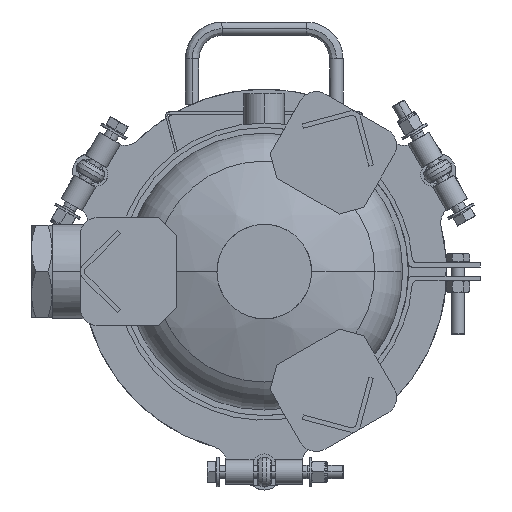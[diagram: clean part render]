
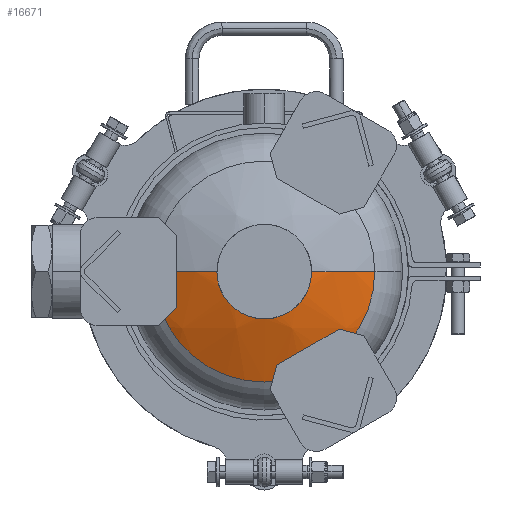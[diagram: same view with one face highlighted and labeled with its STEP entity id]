
A CAD part, front view. The second image highlights one B-rep face of the part: STEP entity #16671.
In plain terms, the highlighted spherical face has radius 174.149 mm.
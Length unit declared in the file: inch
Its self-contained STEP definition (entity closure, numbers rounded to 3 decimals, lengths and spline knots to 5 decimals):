
#869 = DIRECTION ( 'NONE',  ( 0., 0., 1. ) ) ;
#1023 = DIRECTION ( 'NONE',  ( -1., 0., 0. ) ) ;
#1393 = EDGE_LOOP ( 'NONE', ( #7710, #15592, #13226, #7455, #6736 ) ) ;
#1398 = CARTESIAN_POINT ( 'NONE',  ( 3.06649, -22.5077, 0. ) ) ;
#2172 = CARTESIAN_POINT ( 'NONE',  ( -3.06649, -22.5077, 0. ) ) ;
#2219 = DIRECTION ( 'NONE',  ( 1., 0., 0. ) ) ;
#2386 = CARTESIAN_POINT ( 'NONE',  ( 0., -16.37541, 0. ) ) ;
#2518 = DIRECTION ( 'NONE',  ( -1., 0., 0. ) ) ;
#3148 = VERTEX_POINT ( 'NONE', #26638 ) ;
#3219 = DIRECTION ( 'NONE',  ( 1., 0., 0. ) ) ;
#3248 = CIRCLE ( 'NONE', #9886, 1.3125 ) ;
#4080 = VERTEX_POINT ( 'NONE', #8095 ) ;
#5094 = VERTEX_POINT ( 'NONE', #2172 ) ;
#5544 = CARTESIAN_POINT ( 'NONE',  ( 1.3125, -23.10487, 0. ) ) ;
#6249 = FACE_OUTER_BOUND ( 'NONE', #1393, .T. ) ;
#6736 = ORIENTED_EDGE ( 'NONE', *, *, #24379, .F. ) ;
#7455 = ORIENTED_EDGE ( 'NONE', *, *, #12930, .F. ) ;
#7710 = ORIENTED_EDGE ( 'NONE', *, *, #14414, .T. ) ;
#7946 = AXIS2_PLACEMENT_3D ( 'NONE', #24694, #869, #3219 ) ;
#8095 = CARTESIAN_POINT ( 'NONE',  ( -0.98662, -23.10487, -0.86559 ) ) ;
#8703 = AXIS2_PLACEMENT_3D ( 'NONE', #12730, #21187, #2219 ) ;
#8918 = CARTESIAN_POINT ( 'NONE',  ( 0., -23.10487, 0. ) ) ;
#9886 = AXIS2_PLACEMENT_3D ( 'NONE', #8918, #23605, #10862 ) ;
#10862 = DIRECTION ( 'NONE',  ( 0., 0., 1. ) ) ;
#12033 = VERTEX_POINT ( 'NONE', #5544 ) ;
#12596 = CIRCLE ( 'NONE', #19675, 6.85626 ) ;
#12730 = CARTESIAN_POINT ( 'NONE',  ( 0., -22.5077, 0. ) ) ;
#12930 = EDGE_CURVE ( 'NONE', #3148, #4080, #14381, .T. ) ;
#13226 = ORIENTED_EDGE ( 'NONE', *, *, #21293, .F. ) ;
#14381 = CIRCLE ( 'NONE', #15276, 1.3125 ) ;
#14414 = EDGE_CURVE ( 'NONE', #5094, #15254, #15342, .T. ) ;
#14837 = SPHERICAL_SURFACE ( 'NONE', #24509, 6.85626 ) ;
#15254 = VERTEX_POINT ( 'NONE', #1398 ) ;
#15276 = AXIS2_PLACEMENT_3D ( 'NONE', #23863, #23996, #26080 ) ;
#15342 = CIRCLE ( 'NONE', #8703, 3.06649 ) ;
#15592 = ORIENTED_EDGE ( 'NONE', *, *, #20089, .T. ) ;
#16671 = ADVANCED_FACE ( 'NONE', ( #6249 ), #14837, .T. ) ;
#18865 = DIRECTION ( 'NONE',  ( 0., 0., -1. ) ) ;
#19675 = AXIS2_PLACEMENT_3D ( 'NONE', #27009, #19996, #1023 ) ;
#19996 = DIRECTION ( 'NONE',  ( 0., 0., -1. ) ) ;
#20089 = EDGE_CURVE ( 'NONE', #15254, #12033, #12596, .T. ) ;
#21187 = DIRECTION ( 'NONE',  ( 0., -1., 0. ) ) ;
#21293 = EDGE_CURVE ( 'NONE', #4080, #12033, #3248, .T. ) ;
#23432 = CIRCLE ( 'NONE', #7946, 6.85626 ) ;
#23605 = DIRECTION ( 'NONE',  ( 0., -1., 0. ) ) ;
#23863 = CARTESIAN_POINT ( 'NONE',  ( 0., -23.10487, 0. ) ) ;
#23996 = DIRECTION ( 'NONE',  ( 0., -1., 0. ) ) ;
#24379 = EDGE_CURVE ( 'NONE', #5094, #3148, #23432, .T. ) ;
#24509 = AXIS2_PLACEMENT_3D ( 'NONE', #2386, #18865, #2518 ) ;
#24694 = CARTESIAN_POINT ( 'NONE',  ( 0., -16.37541, 0. ) ) ;
#26080 = DIRECTION ( 'NONE',  ( 0., 0., 1. ) ) ;
#26638 = CARTESIAN_POINT ( 'NONE',  ( -1.3125, -23.10487, 0. ) ) ;
#27009 = CARTESIAN_POINT ( 'NONE',  ( 0., -16.37541, 0. ) ) ;
